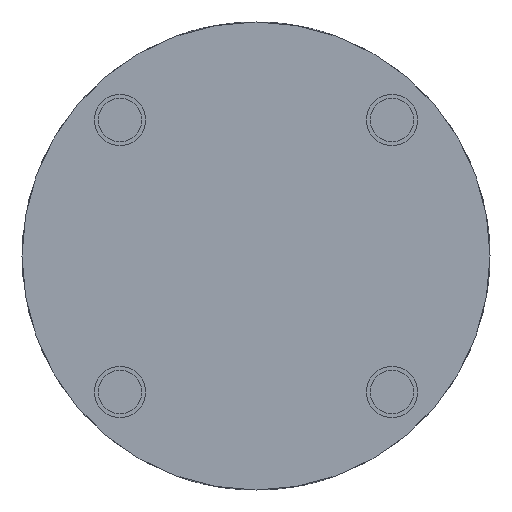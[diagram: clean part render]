
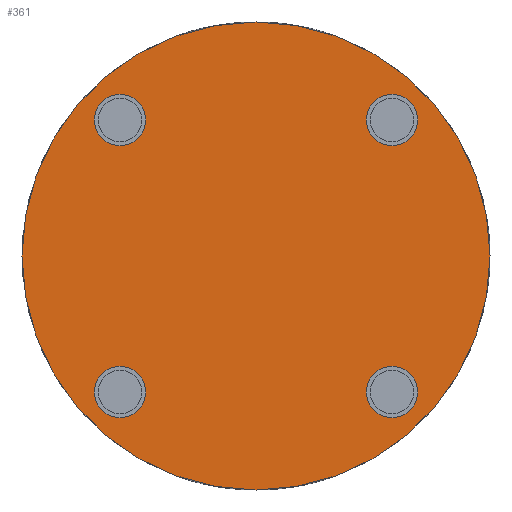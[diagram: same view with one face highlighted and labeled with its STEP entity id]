
A CAD part, front view. The second image highlights one B-rep face of the part: STEP entity #361.
In plain terms, the highlighted planar face has unit normal (0, -1, 0).
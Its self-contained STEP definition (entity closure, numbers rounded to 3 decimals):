
#64=CARTESIAN_POINT('',(0.0,0.0,-36.5));
#65=VERTEX_POINT('',#64);
#187=CARTESIAN_POINT('',(-0.0,0.0,36.5));
#188=VERTEX_POINT('',#187);
#195=CARTESIAN_POINT('',(0.0,0.0,0.0));
#196=DIRECTION('',(-0.0,1.0,0.0));
#197=DIRECTION('',(0.0,0.0,-1.0));
#198=AXIS2_PLACEMENT_3D('',#195,#196,#197);
#199=CIRCLE('',#198,36.5);
#200=EDGE_CURVE('no 594',#188,#65,#199,.T.);
#266=CARTESIAN_POINT('',(-21.213,0.0,-25.213));
#267=VERTEX_POINT('',#266);
#268=CARTESIAN_POINT('',(-21.213,-0.0,-17.213));
#269=VERTEX_POINT('',#268);
#270=CARTESIAN_POINT('',(-21.213,-0.0,-21.213));
#271=DIRECTION('',(0.0,-1.0,0.0));
#272=DIRECTION('',(0.0,0.0,1.0));
#273=AXIS2_PLACEMENT_3D('',#270,#271,#272);
#274=CIRCLE('',#273,4.0);
#275=EDGE_CURVE('no 618',#267,#269,#274,.T.);
#276=ORIENTED_EDGE('',*,*,#275,.F.);
#277=CARTESIAN_POINT('',(-21.213,-0.0,-21.213));
#278=DIRECTION('',(0.0,-1.0,0.0));
#279=DIRECTION('',(0.0,0.0,1.0));
#280=AXIS2_PLACEMENT_3D('',#277,#278,#279);
#281=CIRCLE('',#280,4.0);
#282=EDGE_CURVE('no 622',#269,#267,#281,.T.);
#283=ORIENTED_EDGE('',*,*,#282,.F.);
#284=EDGE_LOOP('',(#276,#283));
#285=FACE_BOUND('',#284,.T.);
#286=CARTESIAN_POINT('',(-21.213,0.0,17.213));
#287=VERTEX_POINT('',#286);
#288=CARTESIAN_POINT('',(-21.213,-0.0,25.213));
#289=VERTEX_POINT('',#288);
#290=CARTESIAN_POINT('',(-21.213,-0.0,21.213));
#291=DIRECTION('',(0.0,-1.0,0.0));
#292=DIRECTION('',(0.0,0.0,1.0));
#293=AXIS2_PLACEMENT_3D('',#290,#291,#292);
#294=CIRCLE('',#293,4.0);
#295=EDGE_CURVE('no 631',#287,#289,#294,.T.);
#296=ORIENTED_EDGE('',*,*,#295,.F.);
#297=CARTESIAN_POINT('',(-21.213,-0.0,21.213));
#298=DIRECTION('',(0.0,-1.0,0.0));
#299=DIRECTION('',(0.0,0.0,1.0));
#300=AXIS2_PLACEMENT_3D('',#297,#298,#299);
#301=CIRCLE('',#300,4.0);
#302=EDGE_CURVE('no 635',#289,#287,#301,.T.);
#303=ORIENTED_EDGE('',*,*,#302,.F.);
#304=EDGE_LOOP('',(#296,#303));
#305=FACE_BOUND('',#304,.T.);
#306=CARTESIAN_POINT('',(21.213,0.0,17.213));
#307=VERTEX_POINT('',#306);
#308=CARTESIAN_POINT('',(21.213,0.0,25.213));
#309=VERTEX_POINT('',#308);
#310=CARTESIAN_POINT('',(21.213,0.0,21.213));
#311=DIRECTION('',(0.0,-1.0,0.0));
#312=DIRECTION('',(0.0,0.0,1.0));
#313=AXIS2_PLACEMENT_3D('',#310,#311,#312);
#314=CIRCLE('',#313,4.0);
#315=EDGE_CURVE('no 644',#307,#309,#314,.T.);
#316=ORIENTED_EDGE('',*,*,#315,.F.);
#317=CARTESIAN_POINT('',(21.213,0.0,21.213));
#318=DIRECTION('',(0.0,-1.0,0.0));
#319=DIRECTION('',(0.0,0.0,1.0));
#320=AXIS2_PLACEMENT_3D('',#317,#318,#319);
#321=CIRCLE('',#320,4.0);
#322=EDGE_CURVE('no 648',#309,#307,#321,.T.);
#323=ORIENTED_EDGE('',*,*,#322,.F.);
#324=EDGE_LOOP('',(#316,#323));
#325=FACE_BOUND('',#324,.T.);
#326=CARTESIAN_POINT('',(21.213,0.0,-25.213));
#327=VERTEX_POINT('',#326);
#328=CARTESIAN_POINT('',(21.213,0.0,-17.213));
#329=VERTEX_POINT('',#328);
#330=CARTESIAN_POINT('',(21.213,0.0,-21.213));
#331=DIRECTION('',(0.0,-1.0,0.0));
#332=DIRECTION('',(0.0,0.0,1.0));
#333=AXIS2_PLACEMENT_3D('',#330,#331,#332);
#334=CIRCLE('',#333,4.0);
#335=EDGE_CURVE('no 657',#327,#329,#334,.T.);
#336=ORIENTED_EDGE('',*,*,#335,.F.);
#337=CARTESIAN_POINT('',(21.213,0.0,-21.213));
#338=DIRECTION('',(0.0,-1.0,0.0));
#339=DIRECTION('',(0.0,0.0,1.0));
#340=AXIS2_PLACEMENT_3D('',#337,#338,#339);
#341=CIRCLE('',#340,4.0);
#342=EDGE_CURVE('no 661',#329,#327,#341,.T.);
#343=ORIENTED_EDGE('',*,*,#342,.F.);
#344=EDGE_LOOP('',(#336,#343));
#345=FACE_BOUND('',#344,.T.);
#346=ORIENTED_EDGE('',*,*,#200,.F.);
#347=CARTESIAN_POINT('',(0.0,0.0,0.0));
#348=DIRECTION('',(-0.0,1.0,0.0));
#349=DIRECTION('',(0.0,0.0,-1.0));
#350=AXIS2_PLACEMENT_3D('',#347,#348,#349);
#351=CIRCLE('',#350,36.5);
#352=EDGE_CURVE('no 668',#65,#188,#351,.T.);
#353=ORIENTED_EDGE('',*,*,#352,.F.);
#354=EDGE_LOOP('',(#346,#353));
#355=FACE_OUTER_BOUND('',#354,.T.);
#356=CARTESIAN_POINT('',(0.0,0.0,0.0));
#357=DIRECTION('',(-0.0,1.0,0.0));
#358=DIRECTION('',(0.0,0.0,-1.0));
#359=AXIS2_PLACEMENT_3D('',#356,#357,#358);
#360=PLANE('',#359);
#361=ADVANCED_FACE('no 609',(#285,#305,#325,#345,#355),#360,.F.);
